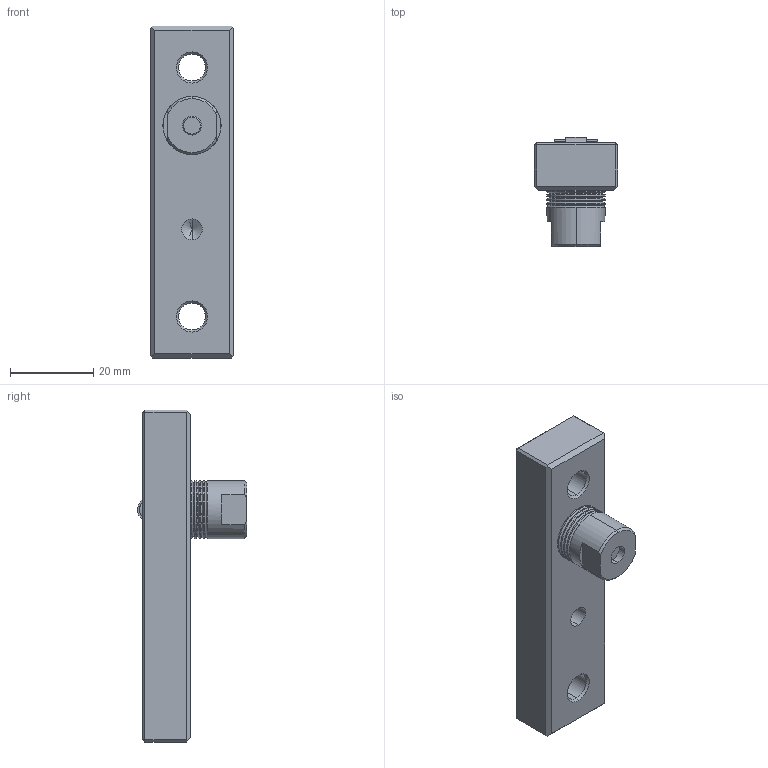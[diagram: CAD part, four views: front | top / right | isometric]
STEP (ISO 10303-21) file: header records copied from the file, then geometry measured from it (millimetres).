
FILE_DESCRIPTION (( 'STEP AP203' ), '1' );
FILE_NAME ('PRI2080.STEP', '2010-06-15T08:41:53', ( ' ' ), ( ' ' ), 'SwSTEP 2.0', 'SolidWorks 2005204', '' );
FILE_SCHEMA (( 'CONFIG_CONTROL_DESIGN' ));
Length unit declared in the file: millimetre
Products named in the file (7): RITENSORE 20; PRI2080; PERNO RULLINO6; CORPO RITENSORE6; SPINA 3X9_Parallel Pin ISO 8734 - 4 x 18 - A - St; RULLINO6
Assembly tree (6 placements, depth 3):
  PRI2080
    RITENSORE 20
      SPINA 3X9_Parallel Pin ISO 8734 - 4 x 18 - A - St
      CORPO RITENSORE6
      RULLINO6
      PERNO RULLINO6
    PRI2080
Bounding box: 20 x 26.3 x 80 mm (x, y, z)
Volume: 17897.2 mm3; surface area: 8865.1 mm2
Topology: 5 solids, 5 shells, 170 faces, 381 edges, 226 vertices
Faces by surface type: cylinder 65, cone 55, plane 48, torus 2
Entity records: 5587 total; most frequent: CARTESIAN_POINT 967, DIRECTION 886, ORIENTED_EDGE 758, EDGE_CURVE 379, AXIS2_PLACEMENT_3D 345, VERTEX_POINT 226, LINE 196, VECTOR 196
